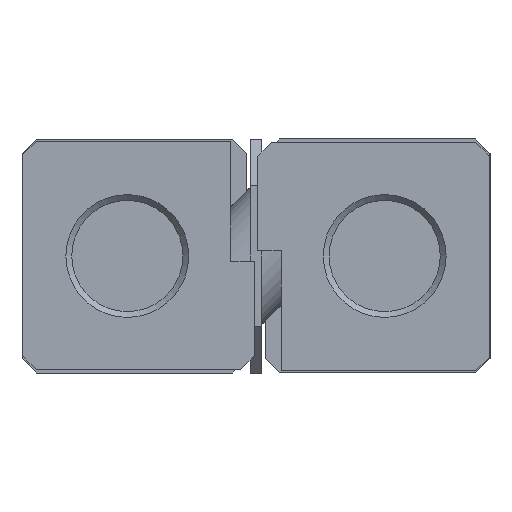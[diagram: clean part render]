
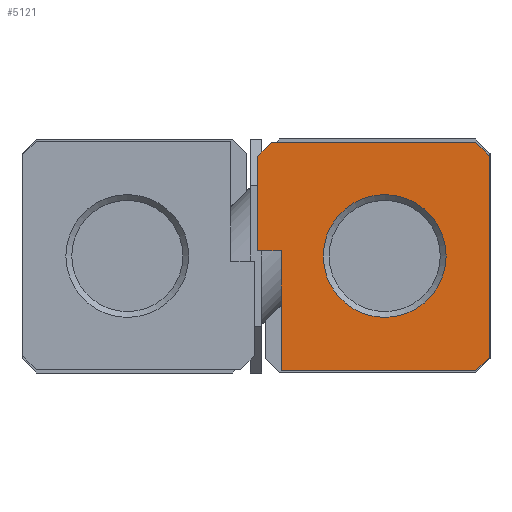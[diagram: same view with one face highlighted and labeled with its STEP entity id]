
A CAD part, left-side view. The second image highlights one B-rep face of the part: STEP entity #5121.
In plain terms, the highlighted planar face has unit normal (-1, 0, 0).
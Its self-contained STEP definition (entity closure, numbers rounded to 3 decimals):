
#200=CIRCLE('',#5445,5.25);
#433=ORIENTED_EDGE('',*,*,#1794,.F.);
#434=ORIENTED_EDGE('',*,*,#1776,.F.);
#435=ORIENTED_EDGE('',*,*,#1793,.F.);
#436=ORIENTED_EDGE('',*,*,#1791,.F.);
#437=ORIENTED_EDGE('',*,*,#1789,.F.);
#438=ORIENTED_EDGE('',*,*,#1787,.F.);
#439=ORIENTED_EDGE('',*,*,#1785,.F.);
#440=ORIENTED_EDGE('',*,*,#1783,.F.);
#441=ORIENTED_EDGE('',*,*,#1781,.F.);
#442=ORIENTED_EDGE('',*,*,#1779,.F.);
#1776=EDGE_CURVE('',#2469,#2470,#2981,.T.);
#1779=EDGE_CURVE('',#2470,#2471,#2984,.T.);
#1781=EDGE_CURVE('',#2471,#2472,#2986,.T.);
#1783=EDGE_CURVE('',#2472,#2473,#2988,.T.);
#1785=EDGE_CURVE('',#2473,#2474,#2990,.T.);
#1787=EDGE_CURVE('',#2474,#2475,#2992,.T.);
#1789=EDGE_CURVE('',#2475,#2476,#2994,.T.);
#1791=EDGE_CURVE('',#2476,#2477,#2996,.T.);
#1793=EDGE_CURVE('',#2477,#2469,#2998,.T.);
#1794=EDGE_CURVE('',#2478,#2478,#200,.T.);
#2469=VERTEX_POINT('',#7501);
#2470=VERTEX_POINT('',#7502);
#2471=VERTEX_POINT('',#7507);
#2472=VERTEX_POINT('',#7511);
#2473=VERTEX_POINT('',#7515);
#2474=VERTEX_POINT('',#7519);
#2475=VERTEX_POINT('',#7523);
#2476=VERTEX_POINT('',#7527);
#2477=VERTEX_POINT('',#7531);
#2478=VERTEX_POINT('',#7537);
#2981=LINE('',#7500,#3500);
#2984=LINE('',#7506,#3503);
#2986=LINE('',#7510,#3505);
#2988=LINE('',#7514,#3507);
#2990=LINE('',#7518,#3509);
#2992=LINE('',#7522,#3511);
#2994=LINE('',#7526,#3513);
#2996=LINE('',#7530,#3515);
#2998=LINE('',#7534,#3517);
#3500=VECTOR('',#5995,1000.);
#3503=VECTOR('',#6000,1000.);
#3505=VECTOR('',#6004,1000.);
#3507=VECTOR('',#6008,1000.);
#3509=VECTOR('',#6012,1000.);
#3511=VECTOR('',#6016,1000.);
#3513=VECTOR('',#6020,1000.);
#3515=VECTOR('',#6024,1000.);
#3517=VECTOR('',#6028,1000.);
#3996=EDGE_LOOP('',(#433));
#3997=EDGE_LOOP('',(#434,#435,#436,#437,#438,#439,#440,#441,#442));
#4457=FACE_BOUND('',#3996,.T.);
#4458=FACE_BOUND('',#3997,.T.);
#4910=PLANE('',#5444);
#5121=ADVANCED_FACE('',(#4457,#4458),#4910,.F.);
#5444=AXIS2_PLACEMENT_3D('',#7535,#6029,#6030);
#5445=AXIS2_PLACEMENT_3D('',#7536,#6031,#6032);
#5995=DIRECTION('',(0.,-1.,0.));
#6000=DIRECTION('',(0.,-0.707,-0.707));
#6004=DIRECTION('',(0.,0.,-1.));
#6008=DIRECTION('',(0.,0.707,-0.707));
#6012=DIRECTION('',(0.,1.,0.));
#6016=DIRECTION('',(0.,0.,1.));
#6020=DIRECTION('',(0.,1.,0.));
#6024=DIRECTION('',(0.,0.,1.));
#6028=DIRECTION('',(0.,-0.707,0.707));
#6029=DIRECTION('',(1.,0.,0.));
#6030=DIRECTION('',(0.,1.,0.));
#6031=DIRECTION('',(-1.,0.,0.));
#6032=DIRECTION('',(0.,0.,1.));
#7500=CARTESIAN_POINT('',(0.,-1.32,9.7));
#7501=CARTESIAN_POINT('',(0.,-1.32,9.7));
#7502=CARTESIAN_POINT('',(0.,-18.78,9.7));
#7506=CARTESIAN_POINT('',(0.,-18.78,9.7));
#7507=CARTESIAN_POINT('',(0.,-19.95,8.53));
#7510=CARTESIAN_POINT('',(0.,-19.95,8.53));
#7511=CARTESIAN_POINT('',(0.,-19.95,-8.63));
#7514=CARTESIAN_POINT('',(0.,-19.95,-8.63));
#7515=CARTESIAN_POINT('',(0.,-18.78,-9.8));
#7518=CARTESIAN_POINT('',(0.,-18.78,-9.8));
#7519=CARTESIAN_POINT('',(0.,-2.15,-9.8));
#7522=CARTESIAN_POINT('',(0.,-2.15,-9.8));
#7523=CARTESIAN_POINT('',(0.,-2.15,0.45));
#7526=CARTESIAN_POINT('',(0.,-2.15,0.45));
#7527=CARTESIAN_POINT('',(0.,-0.15,0.45));
#7530=CARTESIAN_POINT('',(0.,-0.15,0.45));
#7531=CARTESIAN_POINT('',(0.,-0.15,8.53));
#7534=CARTESIAN_POINT('',(0.,-0.15,8.53));
#7535=CARTESIAN_POINT('',(0.,0.,0.));
#7536=CARTESIAN_POINT('',(0.,-11.,0.));
#7537=CARTESIAN_POINT('',(0.,-11.,5.25));
